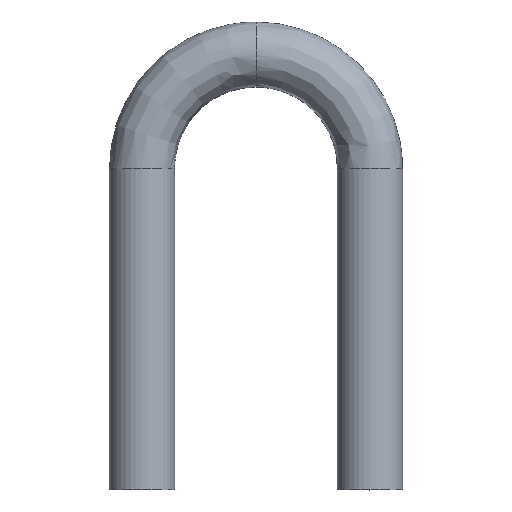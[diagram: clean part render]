
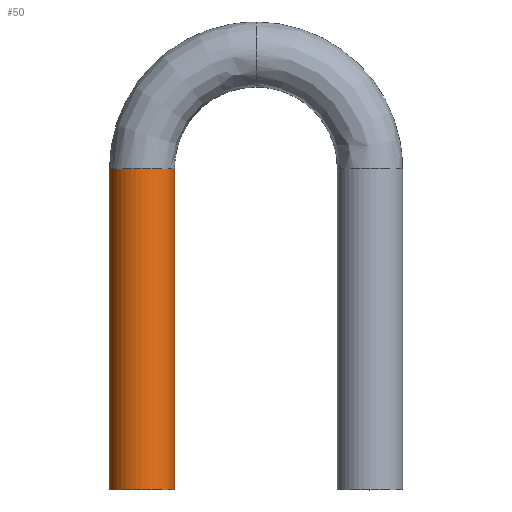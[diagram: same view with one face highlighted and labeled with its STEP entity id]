
A CAD part, top view. The second image highlights one B-rep face of the part: STEP entity #50.
In plain terms, the highlighted cylindrical face has radius 4.763 mm (diameter 9.525 mm), a partial arc.
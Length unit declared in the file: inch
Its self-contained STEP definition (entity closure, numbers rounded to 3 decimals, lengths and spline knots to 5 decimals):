
#50=ADVANCED_FACE('',(#101),#102,.T.);
#101=FACE_OUTER_BOUND('',#221,.T.);
#102=CYLINDRICAL_SURFACE('',#222,0.1875);
#221=EDGE_LOOP('',(#474,#475,#476,#477));
#222=AXIS2_PLACEMENT_3D('',#478,#479,#480);
#474=ORIENTED_EDGE('',*,*,#541,.F.);
#475=ORIENTED_EDGE('',*,*,#542,.T.);
#476=ORIENTED_EDGE('',*,*,#543,.F.);
#477=ORIENTED_EDGE('',*,*,#539,.T.);
#478=CARTESIAN_POINT('',(0.0,0.0,0.0));
#479=DIRECTION('',(-0.0,-1.0,-0.0));
#480=DIRECTION('',(-1.0,0.0,0.0));
#539=EDGE_CURVE('',#566,#570,#572,.T.);
#541=EDGE_CURVE('',#574,#570,#575,.T.);
#542=EDGE_CURVE('',#574,#576,#577,.T.);
#543=EDGE_CURVE('',#566,#576,#578,.T.);
#566=VERTEX_POINT('',#605);
#570=VERTEX_POINT('',#614);
#572=CIRCLE('',#621,0.1875);
#574=VERTEX_POINT('',#623);
#575=LINE('',#624,#625);
#576=VERTEX_POINT('',#626);
#577=CIRCLE('',#627,0.1875);
#578=LINE('',#628,#629);
#605=CARTESIAN_POINT('',(0.1875,1.84974,0.));
#614=CARTESIAN_POINT('',(-0.1875,1.84974,0.0));
#621=AXIS2_PLACEMENT_3D('',#669,#670,#671);
#623=CARTESIAN_POINT('',(-0.1875,0.0,0.0));
#624=CARTESIAN_POINT('',(-0.1875,0.0,0.));
#625=VECTOR('',#672,1.0);
#626=CARTESIAN_POINT('',(0.1875,0.0,0.));
#627=AXIS2_PLACEMENT_3D('',#673,#674,#675);
#628=CARTESIAN_POINT('',(0.1875,0.0,0.));
#629=VECTOR('',#676,1.0);
#669=CARTESIAN_POINT('',(0.0,1.84974,0.0));
#670=DIRECTION('',(-0.0,-1.0,-0.0));
#671=DIRECTION('',(-1.0,0.0,0.0));
#672=DIRECTION('',(0.0,1.0,0.0));
#673=CARTESIAN_POINT('',(0.0,0.0,0.0));
#674=DIRECTION('',(0.0,1.0,0.0));
#675=DIRECTION('',(-1.0,0.0,0.0));
#676=DIRECTION('',(-0.0,-1.0,-0.0));
